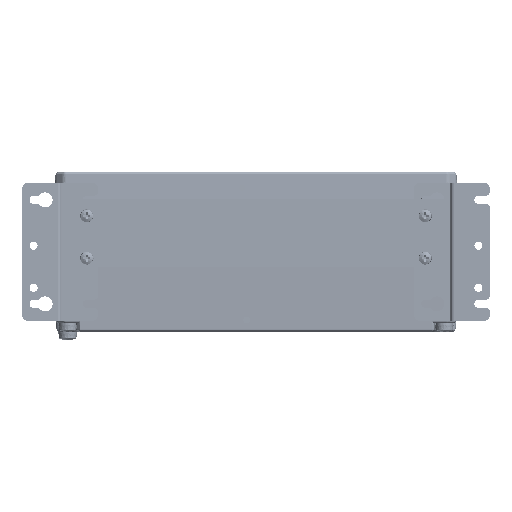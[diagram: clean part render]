
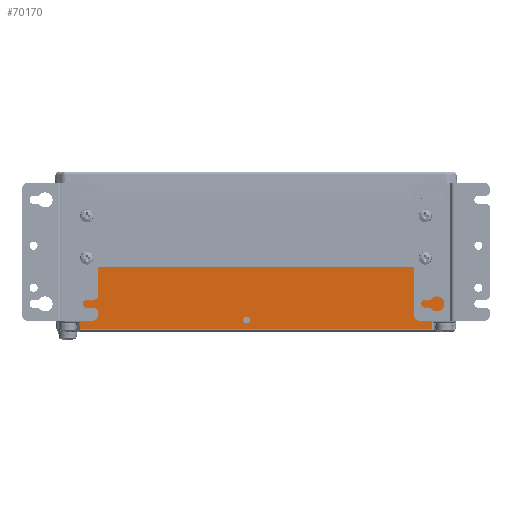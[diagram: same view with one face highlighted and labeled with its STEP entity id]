
A CAD part, left-side view. The second image highlights one B-rep face of the part: STEP entity #70170.
In plain terms, the highlighted planar face has unit normal (-1, 0, -0.026).
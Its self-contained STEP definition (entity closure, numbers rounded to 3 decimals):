
#1560 = LINE ( 'NONE', #347953, #215940 ) ;
#4887 = VECTOR ( 'NONE', #105414, 1000. ) ;
#10661 = VERTEX_POINT ( 'NONE', #274799 ) ;
#15982 = CARTESIAN_POINT ( 'NONE',  ( -71.811, -8.555, -30.963 ) ) ;
#16699 = CARTESIAN_POINT ( 'NONE',  ( -71.745, 66.414, -33.493 ) ) ;
#18468 = DIRECTION ( 'NONE',  ( -1., 0., -0.026 ) ) ;
#22063 = LINE ( 'NONE', #133803, #4887 ) ;
#24936 = LINE ( 'NONE', #308864, #129206 ) ;
#25601 = ORIENTED_EDGE ( 'NONE', *, *, #156486, .T. ) ;
#27546 = ORIENTED_EDGE ( 'NONE', *, *, #122646, .T. ) ;
#28507 = EDGE_CURVE ( 'NONE', #10661, #290500, #301348, .T. ) ;
#41095 = CARTESIAN_POINT ( 'NONE',  ( -72.452, -77.805, -6.5 ) ) ;
#42040 = ORIENTED_EDGE ( 'NONE', *, *, #314550, .F. ) ;
#44412 = CARTESIAN_POINT ( 'NONE',  ( -71.89, -8.555, -27.963 ) ) ;
#47271 = CARTESIAN_POINT ( 'NONE',  ( -72.448, -77.805, -6.655 ) ) ;
#49111 = VECTOR ( 'NONE', #62080, 1000. ) ;
#54809 = AXIS2_PLACEMENT_3D ( 'NONE', #192548, #18468, #128356 ) ;
#58206 = VECTOR ( 'NONE', #239905, 1000. ) ;
#62080 = DIRECTION ( 'NONE',  ( -0.026, 0., 1. ) ) ;
#65649 = LINE ( 'NONE', #270024, #113304 ) ;
#66778 = CARTESIAN_POINT ( 'NONE',  ( -72.473, 58.695, -5.7 ) ) ;
#70170 = ADVANCED_FACE ( 'NONE', ( #160469, #304269 ), #277742, .T. ) ;
#71370 = CARTESIAN_POINT ( 'NONE',  ( -71.837, 66.501, -29.993 ) ) ;
#76748 = LINE ( 'NONE', #163799, #238520 ) ;
#80555 = VERTEX_POINT ( 'NONE', #338271 ) ;
#85889 = LINE ( 'NONE', #148253, #295061 ) ;
#89110 = VERTEX_POINT ( 'NONE', #108409 ) ;
#96269 = ORIENTED_EDGE ( 'NONE', *, *, #173894, .T. ) ;
#100176 = EDGE_CURVE ( 'NONE', #325034, #177983, #1560, .T. ) ;
#105414 = DIRECTION ( 'NONE',  ( 0., -1., 0. ) ) ;
#108409 = CARTESIAN_POINT ( 'NONE',  ( -71.837, 66.506, -29.993 ) ) ;
#112760 = EDGE_CURVE ( 'NONE', #235950, #373966, #65649, .T. ) ;
#113304 = VECTOR ( 'NONE', #298396, 1000. ) ;
#116135 = LINE ( 'NONE', #231541, #301243 ) ;
#117448 = VERTEX_POINT ( 'NONE', #203845 ) ;
#117751 = LINE ( 'NONE', #259682, #220282 ) ;
#120468 = LINE ( 'NONE', #177217, #276452 ) ;
#122355 = DIRECTION ( 'NONE',  ( 0., 1., 0. ) ) ;
#122646 = EDGE_CURVE ( 'NONE', #182499, #216269, #238032, .T. ) ;
#128356 = DIRECTION ( 'NONE',  ( 0.026, 0., -1. ) ) ;
#129206 = VECTOR ( 'NONE', #166884, 1000. ) ;
#130026 = EDGE_CURVE ( 'NONE', #164248, #290500, #22063, .T. ) ;
#131424 = CARTESIAN_POINT ( 'NONE',  ( -71.89, -5.555, -27.963 ) ) ;
#133572 = DIRECTION ( 'NONE',  ( 0., -1., 0. ) ) ;
#133803 = CARTESIAN_POINT ( 'NONE',  ( -72.448, 90.445, -6.655 ) ) ;
#144943 = EDGE_CURVE ( 'NONE', #322685, #89110, #245481, .T. ) ;
#146368 = DIRECTION ( 'NONE',  ( -0.026, -0.026, 0.999 ) ) ;
#148253 = CARTESIAN_POINT ( 'NONE',  ( -71.745, 66.414, -33.488 ) ) ;
#154859 = VERTEX_POINT ( 'NONE', #262067 ) ;
#156486 = EDGE_CURVE ( 'NONE', #177983, #182499, #120468, .T. ) ;
#158505 = ORIENTED_EDGE ( 'NONE', *, *, #130026, .F. ) ;
#160469 = FACE_BOUND ( 'NONE', #358770, .T. ) ;
#160561 = ORIENTED_EDGE ( 'NONE', *, *, #28507, .T. ) ;
#162449 = CARTESIAN_POINT ( 'NONE',  ( -71.811, -2.555, -30.963 ) ) ;
#163799 = CARTESIAN_POINT ( 'NONE',  ( -72.452, 70.995, -6.5 ) ) ;
#164248 = VERTEX_POINT ( 'NONE', #341913 ) ;
#166884 = DIRECTION ( 'NONE',  ( 0., -1., 0. ) ) ;
#173894 = EDGE_CURVE ( 'NONE', #373966, #117448, #116135, .T. ) ;
#177217 = CARTESIAN_POINT ( 'NONE',  ( -72.448, 90.445, -6.655 ) ) ;
#177983 = VERTEX_POINT ( 'NONE', #298308 ) ;
#182499 = VERTEX_POINT ( 'NONE', #47271 ) ;
#183992 = ORIENTED_EDGE ( 'NONE', *, *, #100176, .T. ) ;
#188224 = CARTESIAN_POINT ( 'NONE',  ( -71.811, -5.555, -30.963 ) ) ;
#191387 = ORIENTED_EDGE ( 'NONE', *, *, #246710, .T. ) ;
#192548 = CARTESIAN_POINT ( 'NONE',  ( -72.473, 90.445, -5.7 ) ) ;
#201306 = DIRECTION ( 'NONE',  ( 0.026, -0.026, -0.999 ) ) ;
#203845 = CARTESIAN_POINT ( 'NONE',  ( -71.837, -85.616, -29.993 ) ) ;
#206628 = CARTESIAN_POINT ( 'NONE',  ( -71.837, -91.81, -29.993 ) ) ;
#210030 = VECTOR ( 'NONE', #210585, 1000. ) ;
#210585 = DIRECTION ( 'NONE',  ( 0.026, 0., -1. ) ) ;
#210791 = ORIENTED_EDGE ( 'NONE', *, *, #366905, .F. ) ;
#212696 = ORIENTED_EDGE ( 'NONE', *, *, #271199, .T. ) ;
#215509 = CARTESIAN_POINT ( 'NONE',  ( -71.89, -5.555, -27.963 ) ) ;
#215871 = ORIENTED_EDGE ( 'NONE', *, *, #144943, .T. ) ;
#215940 = VECTOR ( 'NONE', #313877, 1000. ) ;
#216269 = VERTEX_POINT ( 'NONE', #41095 ) ;
#220282 = VECTOR ( 'NONE', #233157, 1000. ) ;
#227786 = EDGE_CURVE ( 'NONE', #80555, #154859, #278351, .T. ) ;
#229533 = CARTESIAN_POINT ( 'NONE',  ( -72.448, 58.695, -6.655 ) ) ;
#231541 = CARTESIAN_POINT ( 'NONE',  ( -71.831, -85.61, -30.195 ) ) ;
#233157 = DIRECTION ( 'NONE',  ( 0.026, 0., -1. ) ) ;
#235950 = VERTEX_POINT ( 'NONE', #16699 ) ;
#238032 = LINE ( 'NONE', #353515, #49111 ) ;
#238520 = VECTOR ( 'NONE', #133572, 1000. ) ;
#239905 = DIRECTION ( 'NONE',  ( 0., -1., 0. ) ) ;
#243918 = CARTESIAN_POINT ( 'NONE',  ( -71.89, -2.555, -27.963 ) ) ;
#245481 = LINE ( 'NONE', #71370, #58206 ) ;
#246710 = EDGE_CURVE ( 'NONE', #164248, #322685, #117751, .T. ) ;
#259682 = CARTESIAN_POINT ( 'NONE',  ( -72.473, 72.701, -5.7 ) ) ;
#262067 = CARTESIAN_POINT ( 'NONE',  ( -71.811, -5.555, -30.963 ) ) ;
#270024 = CARTESIAN_POINT ( 'NONE',  ( -71.745, -85.726, -33.493 ) ) ;
#271199 = EDGE_CURVE ( 'NONE', #117448, #325034, #24936, .T. ) ;
#274799 = CARTESIAN_POINT ( 'NONE',  ( -72.452, 58.695, -6.5 ) ) ;
#276452 = VECTOR ( 'NONE', #122355, 1000. ) ;
#277742 = PLANE ( 'NONE',  #54809 ) ;
#278351 =( BOUNDED_CURVE ( )  B_SPLINE_CURVE ( 3, ( #215509, #243918, #162449, #359404 ),
 .UNSPECIFIED., .F., .T. ) 
 B_SPLINE_CURVE_WITH_KNOTS ( ( 4, 4 ),
 ( 3.142, 6.283 ),
 .UNSPECIFIED. ) 
 CURVE ( )  GEOMETRIC_REPRESENTATION_ITEM ( )  RATIONAL_B_SPLINE_CURVE ( ( 1., 0.333, 0.333, 1. ) ) 
 REPRESENTATION_ITEM ( '' )  );
#290500 = VERTEX_POINT ( 'NONE', #229533 ) ;
#291443 = CARTESIAN_POINT ( 'NONE',  ( -71.837, 72.701, -29.993 ) ) ;
#295061 = VECTOR ( 'NONE', #201306, 1000. ) ;
#297474 = CARTESIAN_POINT ( 'NONE',  ( -71.745, -85.524, -33.493 ) ) ;
#298308 = CARTESIAN_POINT ( 'NONE',  ( -72.448, -91.81, -6.655 ) ) ;
#298396 = DIRECTION ( 'NONE',  ( 0., -1., 0. ) ) ;
#301243 = VECTOR ( 'NONE', #146368, 1000. ) ;
#301348 = LINE ( 'NONE', #66778, #210030 ) ;
#304269 = FACE_OUTER_BOUND ( 'NONE', #319643, .T. ) ;
#308654 = ORIENTED_EDGE ( 'NONE', *, *, #112760, .T. ) ;
#308864 = CARTESIAN_POINT ( 'NONE',  ( -71.837, -91.81, -29.993 ) ) ;
#313877 = DIRECTION ( 'NONE',  ( -0.026, 0., 1. ) ) ;
#314550 = EDGE_CURVE ( 'NONE', #10661, #216269, #76748, .T. ) ;
#319643 = EDGE_LOOP ( 'NONE', ( #25601, #27546, #42040, #160561, #158505, #191387, #215871, #337559, #308654, #96269, #212696, #183992 ) ) ;
#321590 = ORIENTED_EDGE ( 'NONE', *, *, #227786, .F. ) ;
#322685 = VERTEX_POINT ( 'NONE', #291443 ) ;
#325034 = VERTEX_POINT ( 'NONE', #206628 ) ;
#337559 = ORIENTED_EDGE ( 'NONE', *, *, #343665, .T. ) ;
#338271 = CARTESIAN_POINT ( 'NONE',  ( -71.89, -5.555, -27.963 ) ) ;
#341913 = CARTESIAN_POINT ( 'NONE',  ( -72.448, 72.701, -6.655 ) ) ;
#343665 = EDGE_CURVE ( 'NONE', #89110, #235950, #85889, .T. ) ;
#347953 = CARTESIAN_POINT ( 'NONE',  ( -72.473, -91.81, -5.7 ) ) ;
#353515 = CARTESIAN_POINT ( 'NONE',  ( -72.473, -77.805, -5.7 ) ) ;
#358770 = EDGE_LOOP ( 'NONE', ( #321590, #210791 ) ) ;
#359404 = CARTESIAN_POINT ( 'NONE',  ( -71.811, -5.555, -30.963 ) ) ;
#366905 = EDGE_CURVE ( 'NONE', #154859, #80555, #366996, .T. ) ;
#366996 =( BOUNDED_CURVE ( )  B_SPLINE_CURVE ( 3, ( #188224, #15982, #44412, #131424 ),
 .UNSPECIFIED., .F., .T. ) 
 B_SPLINE_CURVE_WITH_KNOTS ( ( 4, 4 ),
 ( 0., 3.142 ),
 .UNSPECIFIED. ) 
 CURVE ( )  GEOMETRIC_REPRESENTATION_ITEM ( )  RATIONAL_B_SPLINE_CURVE ( ( 1., 0.333, 0.333, 1. ) ) 
 REPRESENTATION_ITEM ( '' )  );
#373966 = VERTEX_POINT ( 'NONE', #297474 ) ;
